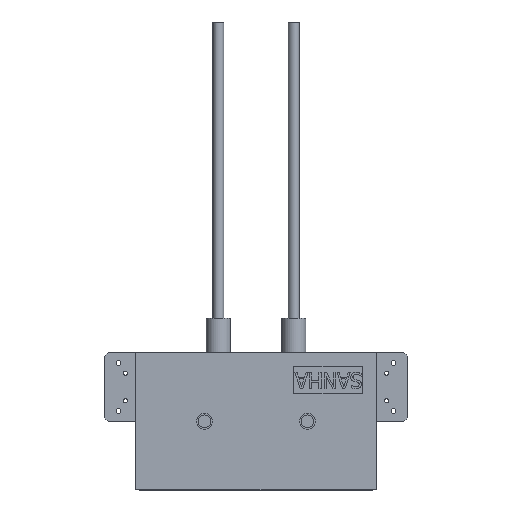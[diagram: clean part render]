
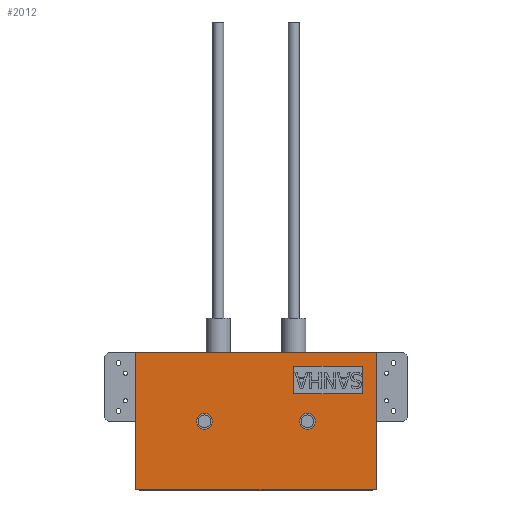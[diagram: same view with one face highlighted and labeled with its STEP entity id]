
A CAD part, top view. The second image highlights one B-rep face of the part: STEP entity #2012.
In plain terms, the highlighted planar face has unit normal (0, 0, 1) as drawn and (1, 0, 0) by its records, which use the part's own axes.
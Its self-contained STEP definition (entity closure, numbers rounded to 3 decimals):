
#110=LINE('',#2775,#312);
#115=LINE('',#2784,#317);
#118=LINE('',#2794,#320);
#284=LINE('',#3407,#486);
#287=LINE('',#3412,#489);
#289=LINE('',#3416,#491);
#291=LINE('',#3419,#493);
#292=LINE('',#3466,#494);
#312=VECTOR('',#2309,10.);
#317=VECTOR('',#2316,10.);
#320=VECTOR('',#2325,10.);
#486=VECTOR('',#2605,10.);
#489=VECTOR('',#2610,10.);
#491=VECTOR('',#2614,10.);
#493=VECTOR('',#2618,10.);
#494=VECTOR('',#2683,10.);
#578=PLANE('',#2218);
#616=FACE_BOUND('',#884,.T.);
#617=FACE_BOUND('',#885,.T.);
#618=FACE_BOUND('',#886,.T.);
#732=FACE_OUTER_BOUND('',#883,.T.);
#883=EDGE_LOOP('',(#1875,#1876,#1877,#1878));
#884=EDGE_LOOP('',(#1879,#1880,#1881,#1882));
#885=EDGE_LOOP('',(#1883));
#886=EDGE_LOOP('',(#1884));
#908=CIRCLE('',#2203,11.5);
#911=CIRCLE('',#2208,11.5);
#939=VERTEX_POINT('',#2771);
#941=VERTEX_POINT('',#2774);
#944=VERTEX_POINT('',#2782);
#948=VERTEX_POINT('',#2792);
#1081=VERTEX_POINT('',#3405);
#1082=VERTEX_POINT('',#3406);
#1083=VERTEX_POINT('',#3411);
#1084=VERTEX_POINT('',#3415);
#1092=VERTEX_POINT('',#3444);
#1095=VERTEX_POINT('',#3452);
#1130=EDGE_CURVE('',#941,#939,#110,.T.);
#1135=EDGE_CURVE('',#939,#944,#115,.T.);
#1140=EDGE_CURVE('',#944,#948,#118,.T.);
#1338=EDGE_CURVE('',#1081,#1082,#284,.T.);
#1341=EDGE_CURVE('',#1083,#1081,#287,.T.);
#1343=EDGE_CURVE('',#1084,#1083,#289,.T.);
#1345=EDGE_CURVE('',#1082,#1084,#291,.T.);
#1353=EDGE_CURVE('',#1092,#1092,#908,.T.);
#1356=EDGE_CURVE('',#1095,#1095,#911,.T.);
#1360=EDGE_CURVE('',#948,#941,#292,.T.);
#1875=ORIENTED_EDGE('',*,*,#1130,.T.);
#1876=ORIENTED_EDGE('',*,*,#1135,.T.);
#1877=ORIENTED_EDGE('',*,*,#1140,.T.);
#1878=ORIENTED_EDGE('',*,*,#1360,.T.);
#1879=ORIENTED_EDGE('',*,*,#1338,.T.);
#1880=ORIENTED_EDGE('',*,*,#1345,.T.);
#1881=ORIENTED_EDGE('',*,*,#1343,.T.);
#1882=ORIENTED_EDGE('',*,*,#1341,.T.);
#1883=ORIENTED_EDGE('',*,*,#1353,.T.);
#1884=ORIENTED_EDGE('',*,*,#1356,.T.);
#2012=ADVANCED_FACE('',(#732,#616,#617,#618),#578,.T.);
#2203=AXIS2_PLACEMENT_3D('',#3445,#2653,#2654);
#2208=AXIS2_PLACEMENT_3D('',#3453,#2663,#2664);
#2218=AXIS2_PLACEMENT_3D('',#3467,#2684,#2685);
#2309=DIRECTION('',(0.,-1.,0.));
#2316=DIRECTION('',(0.,0.,-1.));
#2325=DIRECTION('',(0.,1.,0.));
#2605=DIRECTION('',(0.,-1.,0.));
#2610=DIRECTION('',(0.,0.,-1.));
#2614=DIRECTION('',(0.,1.,0.));
#2618=DIRECTION('',(0.,0.,1.));
#2653=DIRECTION('center_axis',(-1.,0.,0.));
#2654=DIRECTION('ref_axis',(0.,0.,1.));
#2663=DIRECTION('center_axis',(-1.,0.,0.));
#2664=DIRECTION('ref_axis',(0.,0.,1.));
#2683=DIRECTION('',(0.,0.,1.));
#2684=DIRECTION('center_axis',(1.,0.,0.));
#2685=DIRECTION('ref_axis',(0.,0.,-1.));
#2771=CARTESIAN_POINT('',(50.,0.,0.));
#2774=CARTESIAN_POINT('',(50.,200.,0.));
#2775=CARTESIAN_POINT('',(50.,0.,0.));
#2782=CARTESIAN_POINT('',(50.,0.,-350.));
#2784=CARTESIAN_POINT('',(50.,0.,-350.));
#2792=CARTESIAN_POINT('',(50.,200.,-350.));
#2794=CARTESIAN_POINT('',(50.,200.,-350.));
#3405=CARTESIAN_POINT('',(50.,60.,-120.));
#3406=CARTESIAN_POINT('',(50.,20.,-120.));
#3407=CARTESIAN_POINT('',(50.,80.,-120.));
#3411=CARTESIAN_POINT('',(50.,60.,-20.));
#3412=CARTESIAN_POINT('',(50.,60.,-97.5));
#3415=CARTESIAN_POINT('',(50.,20.,-20.));
#3416=CARTESIAN_POINT('',(50.,60.,-20.));
#3419=CARTESIAN_POINT('',(50.,20.,-147.5));
#3444=CARTESIAN_POINT('',(50.,100.,-111.5));
#3445=CARTESIAN_POINT('Origin',(50.,100.,-100.));
#3452=CARTESIAN_POINT('',(50.,100.,-261.5));
#3453=CARTESIAN_POINT('Origin',(50.,100.,-250.));
#3466=CARTESIAN_POINT('',(50.,200.,0.));
#3467=CARTESIAN_POINT('Origin',(50.,100.,-175.));
